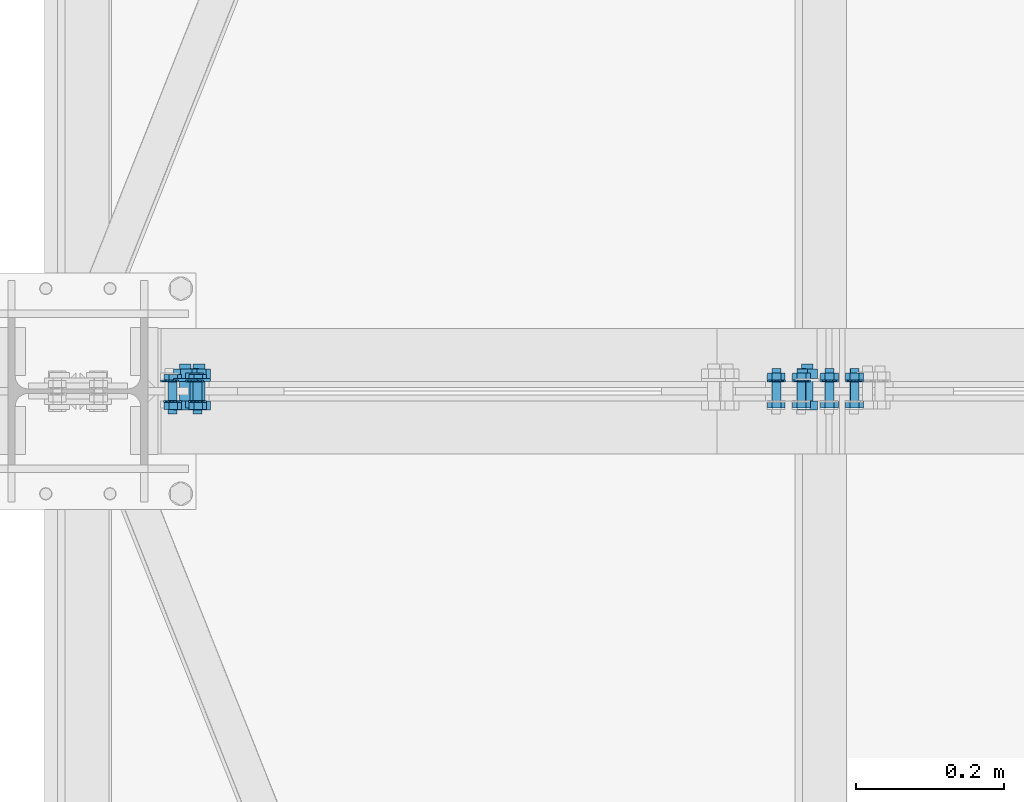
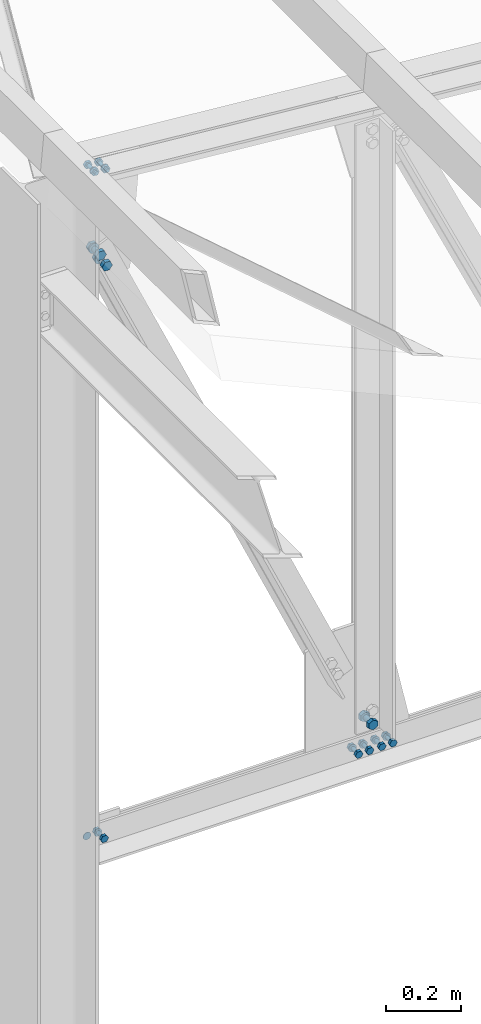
# One storey, part 122 of 251: 40 mechanical fasteners.
"""IFC4 building model written with IfcOpenShell, lengths in metres."""

from ifc_helpers import new_model, si_unit, frame, origin_with_axes, place, context, project, spatial, polyline, outline, extrude, type_object, element, save


model = new_model("IFC4")

# Units and contexts
model_context = context("Model", 3, precision=1e-05, world=origin_with_axes())
ifc_project = project(units=[si_unit("LENGTHUNIT", "METRE"), si_unit("AREAUNIT", "SQUARE_METRE"), si_unit("VOLUMEUNIT", "CUBIC_METRE"), si_unit("MASSUNIT", "GRAM", prefix="KILO"), si_unit("TIMEUNIT", "SECOND"), si_unit("PLANEANGLEUNIT", "RADIAN"), si_unit("SOLIDANGLEUNIT", "STERADIAN"), si_unit("THERMODYNAMICTEMPERATUREUNIT", "DEGREE_CELSIUS")], contexts=[model_context])

# Site, building, storey
placement_1 = place(None, origin_with_axes())
site = spatial("IfcSite", under=ifc_project, at=placement_1, Name="Italia", CompositionType="ELEMENT")
building = spatial("IfcBuilding", under=site, at=placement_1, Name="Deposito", CompositionType="ELEMENT")
storey = spatial("IfcBuildingStorey", under=building, at=placement_1, Name="Storey 0", CompositionType="ELEMENT", Elevation=0.0)

# Mechanical fasteners
mechanical_fastener_type_1 = type_object("IfcMechanicalFastenerType", Name="Reticolare 4", PredefinedType="BOLT")
placement_2 = place(placement_1, origin_with_axes())
mechanical_fastener_1_placement = place(placement_2, origin_with_axes())
element("IfcMechanicalFastener", 1, at=mechanical_fastener_1_placement, inside=storey, type_object=mechanical_fastener_type_1, Name="Reticolare 4", NominalDiameter=0.024, context=model_context, shape_type="SweptSolid", body=[
    extrude(outline(polyline([(0.0, 0.0), (-0.000409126, -0.00310564), (-0.00160789, -0.00600004), (-0.00351477, -0.00848532), (-0.00600004, -0.0103922), (-0.00889444, -0.011591), (-0.0120001, -0.0120001), (-0.0151057, -0.011591), (-0.0180001, -0.0103922), (-0.0204854, -0.00848532), (-0.0223923, -0.00600004), (-0.023591, -0.00310564), (-0.0240002, 0.0), (-0.023591, 0.00310564), (-0.0223923, 0.00600004), (-0.0204854, 0.00848532), (-0.0180001, 0.0103922), (-0.0151057, 0.011591), (-0.0120001, 0.0120001), (-0.00889444, 0.011591), (-0.00600004, 0.0103922), (-0.00351477, 0.00848532), (-0.00160789, 0.00600004), (-0.000409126, 0.00310564), (0.0, 0.0)])), frame((6.18605, 10.015, 5.007), z_axis=(0.0, -1.0, 0.0), x_axis=(1.0, 0.0, 0.0)), (0.0, 0.0, 1.0), 0.00200081),
])
mechanical_fastener_type_2 = type_object("IfcMechanicalFastenerType", Name="Reticolare 4", PredefinedType="BOLT")
mechanical_fastener_2_placement = place(placement_2, origin_with_axes())
element("IfcMechanicalFastener", 2, at=mechanical_fastener_2_placement, inside=storey, type_object=mechanical_fastener_type_2, Name="Reticolare 4", NominalDiameter=0.0119999, context=model_context, shape_type="SweptSolid", body=[
    extrude(outline(polyline([(0.0, 0.0), (-0.0120001, 0.0), (-0.0180001, 0.0103922), (-0.0120001, 0.0207844), (0.0, 0.0207844), (0.00600004, 0.0103922), (0.0, 0.0)])), frame((6.21405, 9.987, 4.99661), z_axis=(0.0, -1.0, 0.0), x_axis=(1.0, 0.0, 0.0)), (0.0, 0.0, 1.0), 0.00960064),
])
mechanical_fastener_type_3 = type_object("IfcMechanicalFastenerType", Name="Reticolare 4", PredefinedType="BOLT")
mechanical_fastener_3_placement = place(placement_2, origin_with_axes())
element("IfcMechanicalFastener", 3, at=mechanical_fastener_3_placement, inside=storey, type_object=mechanical_fastener_type_3, Name="Reticolare 4", NominalDiameter=0.012, context=model_context, shape_type="SweptSolid", body=[
    extrude(outline(polyline([(0.0, 0.0), (-0.000204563, -0.00155306), (-0.000803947, -0.00299978), (-0.00175762, -0.00424242), (-0.00300026, -0.00519609), (-0.00444698, -0.00579548), (-0.00600004, -0.00600004), (-0.0075531, -0.00579548), (-0.00899982, -0.00519609), (-0.0102425, -0.00424242), (-0.0111961, -0.00299978), (-0.0117955, -0.00155306), (-0.0120001, 0.0), (-0.0117955, 0.00155306), (-0.0111961, 0.00299978), (-0.0102425, 0.00424242), (-0.00899982, 0.00519609), (-0.0075531, 0.00579548), (-0.00600004, 0.00600004), (-0.00444698, 0.00579548), (-0.00300026, 0.00519609), (-0.00175762, 0.00424242), (-0.000803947, 0.00299978), (-0.000204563, 0.00155306), (0.0, 0.0)])), frame((6.21405, 10.031, 5.007), z_axis=(0.0, -1.0, 0.0), x_axis=(1.0, 0.0, 0.0)), (0.0, 0.0, 1.0), 0.0439997),
])
mechanical_fastener_type_4 = type_object("IfcMechanicalFastenerType", Name="Reticolare 4", PredefinedType="BOLT")
mechanical_fastener_4_placement = place(placement_2, origin_with_axes())
element("IfcMechanicalFastener", 4, at=mechanical_fastener_4_placement, inside=storey, type_object=mechanical_fastener_type_4, Name="Reticolare 4", NominalDiameter=0.0119999, context=model_context, shape_type="SweptSolid", body=[
    extrude(outline(polyline([(0.0, 0.0), (-0.0120001, 0.0), (-0.0180001, 0.0103922), (-0.0120001, 0.0207844), (0.0, 0.0207844), (0.00600004, 0.0103922), (0.0, 0.0)])), frame((6.21405, 10.0246, 4.99661), z_axis=(0.0, -1.0, 0.0), x_axis=(1.0, 0.0, 0.0)), (0.0, 0.0, 1.0), 0.00959969),
])
mechanical_fastener_type_5 = type_object("IfcMechanicalFastenerType", Name="Reticolare 4", PredefinedType="BOLT")
mechanical_fastener_5_placement = place(placement_2, origin_with_axes())
element("IfcMechanicalFastener", 5, at=mechanical_fastener_5_placement, inside=storey, type_object=mechanical_fastener_type_5, Name="Reticolare 4", NominalDiameter=0.024, context=model_context, shape_type="SweptSolid", body=[
    extrude(outline(polyline([(0.0, 0.0), (-0.000409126, -0.00310564), (-0.00160789, -0.00600004), (-0.00351477, -0.00848532), (-0.00600004, -0.0103922), (-0.00889444, -0.011591), (-0.0120001, -0.0120001), (-0.0151057, -0.011591), (-0.0180001, -0.0103922), (-0.0204854, -0.00848532), (-0.0223923, -0.00600004), (-0.023591, -0.00310564), (-0.0240002, 0.0), (-0.023591, 0.00310564), (-0.0223923, 0.00600004), (-0.0204854, 0.00848532), (-0.0180001, 0.0103922), (-0.0151057, 0.011591), (-0.0120001, 0.0120001), (-0.00889444, 0.011591), (-0.00600004, 0.0103922), (-0.00351477, 0.00848532), (-0.00160789, 0.00600004), (-0.000409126, 0.00310564), (0.0, 0.0)])), frame((6.22005, 10.015, 5.007), z_axis=(0.0, -1.0, 0.0), x_axis=(1.0, 0.0, 0.0)), (0.0, 0.0, 1.0), 0.00200081),
])
mechanical_fastener_type_6 = type_object("IfcMechanicalFastenerType", Name="Reticolare 4", PredefinedType="BOLT")
mechanical_fastener_6_placement = place(placement_2, origin_with_axes())
element("IfcMechanicalFastener", 6, at=mechanical_fastener_6_placement, inside=storey, type_object=mechanical_fastener_type_6, Name="Reticolare 4", NominalDiameter=0.0119999, context=model_context, shape_type="SweptSolid", body=[
    extrude(outline(polyline([(0.0, 0.0), (-0.0120001, 0.0), (-0.0180001, 0.0103922), (-0.0120001, 0.0207844), (0.0, 0.0207844), (0.00600004, 0.0103922), (0.0, 0.0)])), frame((7.07447, 9.987, 4.99661), z_axis=(0.0, -1.0, 0.0), x_axis=(1.0, 0.0, 0.0)), (0.0, 0.0, 1.0), 0.00960064),
])
mechanical_fastener_type_7 = type_object("IfcMechanicalFastenerType", Name="Reticolare 4", PredefinedType="BOLT")
mechanical_fastener_7_placement = place(placement_2, origin_with_axes())
element("IfcMechanicalFastener", 7, at=mechanical_fastener_7_placement, inside=storey, type_object=mechanical_fastener_type_7, Name="Reticolare 4", NominalDiameter=0.012, context=model_context, shape_type="SweptSolid", body=[
    extrude(outline(polyline([(0.0, 0.0), (-0.000204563, -0.00155306), (-0.000803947, -0.00299978), (-0.00175762, -0.00424242), (-0.00300026, -0.00519609), (-0.00444698, -0.00579548), (-0.00600004, -0.00600004), (-0.0075531, -0.00579548), (-0.00899982, -0.00519609), (-0.0102425, -0.00424242), (-0.0111961, -0.00299978), (-0.0117955, -0.00155306), (-0.0120001, 0.0), (-0.0117955, 0.00155306), (-0.0111961, 0.00299978), (-0.0102425, 0.00424242), (-0.00899982, 0.00519609), (-0.0075531, 0.00579548), (-0.00600004, 0.00600004), (-0.00444698, 0.00579548), (-0.00300026, 0.00519609), (-0.00175762, 0.00424242), (-0.000803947, 0.00299978), (-0.000204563, 0.00155306), (0.0, 0.0)])), frame((7.07447, 10.031, 5.007), z_axis=(0.0, -1.0, 0.0), x_axis=(1.0, 0.0, 0.0)), (0.0, 0.0, 1.0), 0.0439997),
])
mechanical_fastener_type_8 = type_object("IfcMechanicalFastenerType", Name="Reticolare 4", PredefinedType="BOLT")
mechanical_fastener_8_placement = place(placement_2, origin_with_axes())
element("IfcMechanicalFastener", 8, at=mechanical_fastener_8_placement, inside=storey, type_object=mechanical_fastener_type_8, Name="Reticolare 4", NominalDiameter=0.0119999, context=model_context, shape_type="SweptSolid", body=[
    extrude(outline(polyline([(0.0, 0.0), (-0.0120001, 0.0), (-0.0180001, 0.0103922), (-0.0120001, 0.0207844), (0.0, 0.0207844), (0.00600004, 0.0103922), (0.0, 0.0)])), frame((7.07447, 10.0246, 4.99661), z_axis=(0.0, -1.0, 0.0), x_axis=(1.0, 0.0, 0.0)), (0.0, 0.0, 1.0), 0.00959969),
])
mechanical_fastener_type_9 = type_object("IfcMechanicalFastenerType", Name="Reticolare 4", PredefinedType="BOLT")
mechanical_fastener_9_placement = place(placement_2, origin_with_axes())
element("IfcMechanicalFastener", 9, at=mechanical_fastener_9_placement, inside=storey, type_object=mechanical_fastener_type_9, Name="Reticolare 4", NominalDiameter=0.024, context=model_context, shape_type="SweptSolid", body=[
    extrude(outline(polyline([(0.0, 0.0), (-0.000409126, -0.00310564), (-0.00160789, -0.00600004), (-0.00351477, -0.00848532), (-0.00600004, -0.0103922), (-0.00889444, -0.011591), (-0.0120001, -0.0120001), (-0.0151057, -0.011591), (-0.0180001, -0.0103922), (-0.0204854, -0.00848532), (-0.0223923, -0.00600004), (-0.023591, -0.00310564), (-0.0240002, 0.0), (-0.023591, 0.00310564), (-0.0223923, 0.00600004), (-0.0204854, 0.00848532), (-0.0180001, 0.0103922), (-0.0151057, 0.011591), (-0.0120001, 0.0120001), (-0.00889444, 0.011591), (-0.00600004, 0.0103922), (-0.00351477, 0.00848532), (-0.00160789, 0.00600004), (-0.000409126, 0.00310564), (0.0, 0.0)])), frame((7.08047, 10.015, 5.007), z_axis=(0.0, -1.0, 0.0), x_axis=(1.0, 0.0, 0.0)), (0.0, 0.0, 1.0), 0.00200081),
])
mechanical_fastener_type_10 = type_object("IfcMechanicalFastenerType", Name="Reticolare 4", PredefinedType="BOLT")
mechanical_fastener_10_placement = place(placement_2, origin_with_axes())
element("IfcMechanicalFastener", 10, at=mechanical_fastener_10_placement, inside=storey, type_object=mechanical_fastener_type_10, Name="Reticolare 4", NominalDiameter=0.0119999, context=model_context, shape_type="SweptSolid", body=[
    extrude(outline(polyline([(0.0, 0.0), (-0.0120001, 0.0), (-0.0180001, 0.0103922), (-0.0120001, 0.0207844), (0.0, 0.0207844), (0.00600004, 0.0103922), (0.0, 0.0)])), frame((7.10847, 9.987, 4.99661), z_axis=(0.0, -1.0, 0.0), x_axis=(1.0, 0.0, 0.0)), (0.0, 0.0, 1.0), 0.00960064),
])
mechanical_fastener_type_11 = type_object("IfcMechanicalFastenerType", Name="Reticolare 4", PredefinedType="BOLT")
mechanical_fastener_11_placement = place(placement_2, origin_with_axes())
element("IfcMechanicalFastener", 11, at=mechanical_fastener_11_placement, inside=storey, type_object=mechanical_fastener_type_11, Name="Reticolare 4", NominalDiameter=0.012, context=model_context, shape_type="SweptSolid", body=[
    extrude(outline(polyline([(0.0, 0.0), (-0.000204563, -0.00155306), (-0.000803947, -0.00299978), (-0.00175762, -0.00424242), (-0.00300026, -0.00519609), (-0.00444698, -0.00579548), (-0.00600004, -0.00600004), (-0.0075531, -0.00579548), (-0.00899982, -0.00519609), (-0.0102425, -0.00424242), (-0.0111961, -0.00299978), (-0.0117955, -0.00155306), (-0.0120001, 0.0), (-0.0117955, 0.00155306), (-0.0111961, 0.00299978), (-0.0102425, 0.00424242), (-0.00899982, 0.00519609), (-0.0075531, 0.00579548), (-0.00600004, 0.00600004), (-0.00444698, 0.00579548), (-0.00300026, 0.00519609), (-0.00175762, 0.00424242), (-0.000803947, 0.00299978), (-0.000204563, 0.00155306), (0.0, 0.0)])), frame((7.10847, 10.031, 5.007), z_axis=(0.0, -1.0, 0.0), x_axis=(1.0, 0.0, 0.0)), (0.0, 0.0, 1.0), 0.0439997),
])
mechanical_fastener_type_12 = type_object("IfcMechanicalFastenerType", Name="Reticolare 4", PredefinedType="BOLT")
mechanical_fastener_12_placement = place(placement_2, origin_with_axes())
element("IfcMechanicalFastener", 12, at=mechanical_fastener_12_placement, inside=storey, type_object=mechanical_fastener_type_12, Name="Reticolare 4", NominalDiameter=0.0119999, context=model_context, shape_type="SweptSolid", body=[
    extrude(outline(polyline([(0.0, 0.0), (-0.0120001, 0.0), (-0.0180001, 0.0103922), (-0.0120001, 0.0207844), (0.0, 0.0207844), (0.00600004, 0.0103922), (0.0, 0.0)])), frame((7.10847, 10.0246, 4.99661), z_axis=(0.0, -1.0, 0.0), x_axis=(1.0, 0.0, 0.0)), (0.0, 0.0, 1.0), 0.00959969),
])
mechanical_fastener_type_13 = type_object("IfcMechanicalFastenerType", Name="Reticolare 4", PredefinedType="BOLT")
mechanical_fastener_13_placement = place(placement_2, origin_with_axes())
element("IfcMechanicalFastener", 13, at=mechanical_fastener_13_placement, inside=storey, type_object=mechanical_fastener_type_13, Name="Reticolare 4", NominalDiameter=0.024, context=model_context, shape_type="SweptSolid", body=[
    extrude(outline(polyline([(0.0, 0.0), (-0.000409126, -0.00310564), (-0.00160789, -0.00600004), (-0.00351477, -0.00848532), (-0.00600004, -0.0103922), (-0.00889444, -0.011591), (-0.0120001, -0.0120001), (-0.0151057, -0.011591), (-0.0180001, -0.0103922), (-0.0204854, -0.00848532), (-0.0223923, -0.00600004), (-0.023591, -0.00310564), (-0.0240002, 0.0), (-0.023591, 0.00310564), (-0.0223923, 0.00600004), (-0.0204854, 0.00848532), (-0.0180001, 0.0103922), (-0.0151057, 0.011591), (-0.0120001, 0.0120001), (-0.00889444, 0.011591), (-0.00600004, 0.0103922), (-0.00351477, 0.00848532), (-0.00160789, 0.00600004), (-0.000409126, 0.00310564), (0.0, 0.0)])), frame((7.11447, 10.015, 5.007), z_axis=(0.0, -1.0, 0.0), x_axis=(1.0, 0.0, 0.0)), (0.0, 0.0, 1.0), 0.00200081),
])
mechanical_fastener_type_14 = type_object("IfcMechanicalFastenerType", Name="Reticolare 4", PredefinedType="BOLT")
mechanical_fastener_14_placement = place(placement_2, origin_with_axes())
element("IfcMechanicalFastener", 14, at=mechanical_fastener_14_placement, inside=storey, type_object=mechanical_fastener_type_14, Name="Reticolare 4", NominalDiameter=0.0119999, context=model_context, shape_type="SweptSolid", body=[
    extrude(outline(polyline([(0.0, 0.0), (-0.0120001, 0.0), (-0.0180001, 0.0103922), (-0.0120001, 0.0207844), (0.0, 0.0207844), (0.00600004, 0.0103922), (0.0, 0.0)])), frame((7.03647, 9.987, 4.99661), z_axis=(0.0, -1.0, 0.0), x_axis=(1.0, 0.0, 0.0)), (0.0, 0.0, 1.0), 0.00960064),
])
mechanical_fastener_type_15 = type_object("IfcMechanicalFastenerType", Name="Reticolare 4", PredefinedType="BOLT")
mechanical_fastener_15_placement = place(placement_2, origin_with_axes())
element("IfcMechanicalFastener", 15, at=mechanical_fastener_15_placement, inside=storey, type_object=mechanical_fastener_type_15, Name="Reticolare 4", NominalDiameter=0.012, context=model_context, shape_type="SweptSolid", body=[
    extrude(outline(polyline([(0.0, 0.0), (-0.000204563, -0.00155306), (-0.000803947, -0.00299978), (-0.00175762, -0.00424242), (-0.00300026, -0.00519609), (-0.00444698, -0.00579548), (-0.00600004, -0.00600004), (-0.0075531, -0.00579548), (-0.00899982, -0.00519609), (-0.0102425, -0.00424242), (-0.0111961, -0.00299978), (-0.0117955, -0.00155306), (-0.0120001, 0.0), (-0.0117955, 0.00155306), (-0.0111961, 0.00299978), (-0.0102425, 0.00424242), (-0.00899982, 0.00519609), (-0.0075531, 0.00579548), (-0.00600004, 0.00600004), (-0.00444698, 0.00579548), (-0.00300026, 0.00519609), (-0.00175762, 0.00424242), (-0.000803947, 0.00299978), (-0.000204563, 0.00155306), (0.0, 0.0)])), frame((7.03647, 10.031, 5.007), z_axis=(0.0, -1.0, 0.0), x_axis=(1.0, 0.0, 0.0)), (0.0, 0.0, 1.0), 0.0439997),
])
mechanical_fastener_type_16 = type_object("IfcMechanicalFastenerType", Name="Reticolare 4", PredefinedType="BOLT")
mechanical_fastener_16_placement = place(placement_2, origin_with_axes())
element("IfcMechanicalFastener", 16, at=mechanical_fastener_16_placement, inside=storey, type_object=mechanical_fastener_type_16, Name="Reticolare 4", NominalDiameter=0.0119999, context=model_context, shape_type="SweptSolid", body=[
    extrude(outline(polyline([(0.0, 0.0), (-0.0120001, 0.0), (-0.0180001, 0.0103922), (-0.0120001, 0.0207844), (0.0, 0.0207844), (0.00600004, 0.0103922), (0.0, 0.0)])), frame((7.03647, 10.0246, 4.99661), z_axis=(0.0, -1.0, 0.0), x_axis=(1.0, 0.0, 0.0)), (0.0, 0.0, 1.0), 0.00959969),
])
mechanical_fastener_type_17 = type_object("IfcMechanicalFastenerType", Name="Reticolare 4", PredefinedType="BOLT")
mechanical_fastener_17_placement = place(placement_2, origin_with_axes())
element("IfcMechanicalFastener", 17, at=mechanical_fastener_17_placement, inside=storey, type_object=mechanical_fastener_type_17, Name="Reticolare 4", NominalDiameter=0.024, context=model_context, shape_type="SweptSolid", body=[
    extrude(outline(polyline([(0.0, 0.0), (-0.000409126, -0.00310564), (-0.00160789, -0.00600004), (-0.00351477, -0.00848532), (-0.00600004, -0.0103922), (-0.00889444, -0.011591), (-0.0120001, -0.0120001), (-0.0151057, -0.011591), (-0.0180001, -0.0103922), (-0.0204854, -0.00848532), (-0.0223923, -0.00600004), (-0.023591, -0.00310564), (-0.0240002, 0.0), (-0.023591, 0.00310564), (-0.0223923, 0.00600004), (-0.0204854, 0.00848532), (-0.0180001, 0.0103922), (-0.0151057, 0.011591), (-0.0120001, 0.0120001), (-0.00889444, 0.011591), (-0.00600004, 0.0103922), (-0.00351477, 0.00848532), (-0.00160789, 0.00600004), (-0.000409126, 0.00310564), (0.0, 0.0)])), frame((7.04247, 10.015, 5.007), z_axis=(0.0, -1.0, 0.0), x_axis=(1.0, 0.0, 0.0)), (0.0, 0.0, 1.0), 0.00200081),
])
mechanical_fastener_type_18 = type_object("IfcMechanicalFastenerType", Name="Reticolare 4", PredefinedType="BOLT")
mechanical_fastener_18_placement = place(placement_2, origin_with_axes())
element("IfcMechanicalFastener", 18, at=mechanical_fastener_18_placement, inside=storey, type_object=mechanical_fastener_type_18, Name="Reticolare 4", NominalDiameter=0.0119999, context=model_context, shape_type="SweptSolid", body=[
    extrude(outline(polyline([(0.0, 0.0), (-0.0120001, 0.0), (-0.0180001, 0.0103922), (-0.0120001, 0.0207844), (0.0, 0.0207844), (0.00600004, 0.0103922), (0.0, 0.0)])), frame((7.00247, 9.987, 4.99661), z_axis=(0.0, -1.0, 0.0), x_axis=(1.0, 0.0, 0.0)), (0.0, 0.0, 1.0), 0.00960064),
])
mechanical_fastener_type_19 = type_object("IfcMechanicalFastenerType", Name="Reticolare 4", PredefinedType="BOLT")
mechanical_fastener_19_placement = place(placement_2, origin_with_axes())
element("IfcMechanicalFastener", 19, at=mechanical_fastener_19_placement, inside=storey, type_object=mechanical_fastener_type_19, Name="Reticolare 4", NominalDiameter=0.012, context=model_context, shape_type="SweptSolid", body=[
    extrude(outline(polyline([(0.0, 0.0), (-0.000204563, -0.00155306), (-0.000803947, -0.00299978), (-0.00175762, -0.00424242), (-0.00300026, -0.00519609), (-0.00444698, -0.00579548), (-0.00600004, -0.00600004), (-0.0075531, -0.00579548), (-0.00899982, -0.00519609), (-0.0102425, -0.00424242), (-0.0111961, -0.00299978), (-0.0117955, -0.00155306), (-0.0120001, 0.0), (-0.0117955, 0.00155306), (-0.0111961, 0.00299978), (-0.0102425, 0.00424242), (-0.00899982, 0.00519609), (-0.0075531, 0.00579548), (-0.00600004, 0.00600004), (-0.00444698, 0.00579548), (-0.00300026, 0.00519609), (-0.00175762, 0.00424242), (-0.000803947, 0.00299978), (-0.000204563, 0.00155306), (0.0, 0.0)])), frame((7.00247, 10.031, 5.007), z_axis=(0.0, -1.0, 0.0), x_axis=(1.0, 0.0, 0.0)), (0.0, 0.0, 1.0), 0.0439997),
])
mechanical_fastener_type_20 = type_object("IfcMechanicalFastenerType", Name="Reticolare 4", PredefinedType="BOLT")
mechanical_fastener_20_placement = place(placement_2, origin_with_axes())
element("IfcMechanicalFastener", 20, at=mechanical_fastener_20_placement, inside=storey, type_object=mechanical_fastener_type_20, Name="Reticolare 4", NominalDiameter=0.0119999, context=model_context, shape_type="SweptSolid", body=[
    extrude(outline(polyline([(0.0, 0.0), (-0.0120001, 0.0), (-0.0180001, 0.0103922), (-0.0120001, 0.0207844), (0.0, 0.0207844), (0.00600004, 0.0103922), (0.0, 0.0)])), frame((7.00247, 10.0246, 4.99661), z_axis=(0.0, -1.0, 0.0), x_axis=(1.0, 0.0, 0.0)), (0.0, 0.0, 1.0), 0.00959969),
])
mechanical_fastener_type_21 = type_object("IfcMechanicalFastenerType", Name="Reticolare 4", PredefinedType="BOLT")
mechanical_fastener_21_placement = place(placement_2, origin_with_axes())
element("IfcMechanicalFastener", 21, at=mechanical_fastener_21_placement, inside=storey, type_object=mechanical_fastener_type_21, Name="Reticolare 4", NominalDiameter=0.024, context=model_context, shape_type="SweptSolid", body=[
    extrude(outline(polyline([(0.0, 0.0), (-0.000409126, -0.00310564), (-0.00160789, -0.00600004), (-0.00351477, -0.00848532), (-0.00600004, -0.0103922), (-0.00889444, -0.011591), (-0.0120001, -0.0120001), (-0.0151057, -0.011591), (-0.0180001, -0.0103922), (-0.0204854, -0.00848532), (-0.0223923, -0.00600004), (-0.023591, -0.00310564), (-0.0240002, 0.0), (-0.023591, 0.00310564), (-0.0223923, 0.00600004), (-0.0204854, 0.00848532), (-0.0180001, 0.0103922), (-0.0151057, 0.011591), (-0.0120001, 0.0120001), (-0.00889444, 0.011591), (-0.00600004, 0.0103922), (-0.00351477, 0.00848532), (-0.00160789, 0.00600004), (-0.000409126, 0.00310564), (0.0, 0.0)])), frame((7.00847, 10.015, 5.007), z_axis=(0.0, -1.0, 0.0), x_axis=(1.0, 0.0, 0.0)), (0.0, 0.0, 1.0), 0.00200081),
])
mechanical_fastener_type_22 = type_object("IfcMechanicalFastenerType", Name="Reticolare 4", PredefinedType="BOLT")
mechanical_fastener_22_placement = place(placement_2, origin_with_axes())
element("IfcMechanicalFastener", 22, at=mechanical_fastener_22_placement, inside=storey, type_object=mechanical_fastener_type_22, Name="Reticolare 4", NominalDiameter=0.016, context=model_context, shape_type="SweptSolid", body=[
    extrude(outline(polyline([(0.0, 0.0), (0.0, -0.0160003), (-0.0138564, -0.0240002), (-0.0277128, -0.0160003), (-0.0277128, 0.0), (-0.0138564, 0.0079999), (0.0, 0.0)])), frame((7.05233, 9.987, 5.09953), z_axis=(0.0, -1.0, 0.0), x_axis=(1.0, 0.0, 0.0)), (0.0, 0.0, 1.0), 0.0128002),
])
mechanical_fastener_type_23 = type_object("IfcMechanicalFastenerType", Name="Reticolare 4", PredefinedType="BOLT")
mechanical_fastener_23_placement = place(placement_2, origin_with_axes())
element("IfcMechanicalFastener", 23, at=mechanical_fastener_23_placement, inside=storey, type_object=mechanical_fastener_type_23, Name="Reticolare 4", NominalDiameter=0.016, context=model_context, shape_type="SweptSolid", body=[
    extrude(outline(polyline([(0.0, 0.0), (-0.000272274, -0.00207043), (-0.00107193, -0.00400019), (-0.00234318, -0.00565672), (-0.00399971, -0.00692797), (-0.00592947, -0.00772762), (-0.0079999, -0.0079999), (-0.0100703, -0.00772762), (-0.0120001, -0.00692797), (-0.0136566, -0.00565672), (-0.0149279, -0.00400019), (-0.0157275, -0.00207043), (-0.0159998, 0.0), (-0.0157275, 0.00207043), (-0.0149279, 0.00400019), (-0.0136566, 0.00565672), (-0.0120001, 0.00692797), (-0.0100703, 0.00772762), (-0.0079999, 0.0079999), (-0.00592947, 0.00772762), (-0.00399971, 0.00692797), (-0.00234318, 0.00565672), (-0.00107193, 0.00400019), (-0.000272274, 0.00207043), (0.0, 0.0)])), frame((7.04647, 10.037, 5.09153), z_axis=(0.0, -1.0, 0.0), x_axis=(1.0, 0.0, 0.0)), (0.0, 0.0, 1.0), 0.0499992),
])
mechanical_fastener_type_24 = type_object("IfcMechanicalFastenerType", Name="Reticolare 4", PredefinedType="BOLT")
mechanical_fastener_24_placement = place(placement_2, origin_with_axes())
element("IfcMechanicalFastener", 24, at=mechanical_fastener_24_placement, inside=storey, type_object=mechanical_fastener_type_24, Name="Reticolare 4", NominalDiameter=0.016, context=model_context, shape_type="SweptSolid", body=[
    extrude(outline(polyline([(0.0, 0.0), (0.0, -0.0160003), (-0.0138564, -0.0240002), (-0.0277128, -0.0160003), (-0.0277128, 0.0), (-0.0138564, 0.0079999), (0.0, 0.0)])), frame((7.05233, 10.0298, 5.09953), z_axis=(0.0, -1.0, 0.0), x_axis=(1.0, 0.0, 0.0)), (0.0, 0.0, 1.0), 0.0128002),
])
mechanical_fastener_type_25 = type_object("IfcMechanicalFastenerType", Name="Reticolare 4", PredefinedType="BOLT")
mechanical_fastener_25_placement = place(placement_2, origin_with_axes())
element("IfcMechanicalFastener", 25, at=mechanical_fastener_25_placement, inside=storey, type_object=mechanical_fastener_type_25, Name="Reticolare 4", NominalDiameter=0.012, context=model_context, shape_type="SweptSolid", body=[
    extrude(outline(polyline([(0.0, 0.0), (0.0119548, 0.00104237), (0.0188351, -0.00878954), (0.0137606, -0.0196638), (0.00180578, -0.0207062), (-0.0050745, -0.0108743), (0.0, 0.0)])), frame((6.18524, 10.013, 7.21179), z_axis=(0.0, 1.0, 0.0), x_axis=(-1.0, 0.0, 0.0)), (0.0, 0.0, 1.0), 0.00960064),
])
mechanical_fastener_type_26 = type_object("IfcMechanicalFastenerType", Name="Reticolare 4", PredefinedType="BOLT")
mechanical_fastener_26_placement = place(placement_2, origin_with_axes())
element("IfcMechanicalFastener", 26, at=mechanical_fastener_26_placement, inside=storey, type_object=mechanical_fastener_type_26, Name="Reticolare 4", NominalDiameter=0.012, context=model_context, shape_type="SweptSolid", body=[
    extrude(outline(polyline([(0.0, 0.0), (-0.000204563, -0.00155306), (-0.000803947, -0.00299978), (-0.00175762, -0.00424242), (-0.00300026, -0.00519609), (-0.00444698, -0.00579548), (-0.00600004, -0.00600004), (-0.0075531, -0.00579548), (-0.00899982, -0.00519609), (-0.0102425, -0.00424242), (-0.0111961, -0.00299978), (-0.0117955, -0.00155306), (-0.0120001, 0.0), (-0.0117955, 0.00155306), (-0.0111961, 0.00299978), (-0.0102425, 0.00424242), (-0.00899982, 0.00519609), (-0.0075531, 0.00579548), (-0.00600004, 0.00600004), (-0.00444698, 0.00579548), (-0.00300026, 0.00519609), (-0.00175762, 0.00424242), (-0.000803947, 0.00299978), (-0.000204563, 0.00155306), (0.0, 0.0)])), frame((6.17236, 9.969, 7.20196), z_axis=(0.0, 1.0, 0.0), x_axis=(-1.0, 0.0, 0.0)), (0.0, 0.0, 1.0), 0.0439997),
])
mechanical_fastener_type_27 = type_object("IfcMechanicalFastenerType", Name="Reticolare 4", PredefinedType="BOLT")
mechanical_fastener_27_placement = place(placement_2, origin_with_axes())
element("IfcMechanicalFastener", 27, at=mechanical_fastener_27_placement, inside=storey, type_object=mechanical_fastener_type_27, Name="Reticolare 4", NominalDiameter=0.012, context=model_context, shape_type="SweptSolid", body=[
    extrude(outline(polyline([(0.0, 0.0), (0.0119548, 0.00104237), (0.0188351, -0.00878954), (0.0137606, -0.0196638), (0.00180578, -0.0207062), (-0.0050745, -0.0108743), (0.0, 0.0)])), frame((6.18524, 9.9754, 7.21179), z_axis=(0.0, 1.0, 0.0), x_axis=(-1.0, 0.0, 0.0)), (0.0, 0.0, 1.0), 0.00959969),
])
mechanical_fastener_type_28 = type_object("IfcMechanicalFastenerType", Name="Reticolare 4", PredefinedType="BOLT")
mechanical_fastener_28_placement = place(placement_2, origin_with_axes())
element("IfcMechanicalFastener", 28, at=mechanical_fastener_28_placement, inside=storey, type_object=mechanical_fastener_type_28, Name="Reticolare 4", NominalDiameter=0.024, context=model_context, shape_type="SweptSolid", body=[
    extrude(outline(polyline([(0.0, 0.0), (-0.000409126, -0.00310564), (-0.00160789, -0.00600004), (-0.00351477, -0.00848532), (-0.00600004, -0.0103922), (-0.00889444, -0.011591), (-0.0120001, -0.0120001), (-0.0151057, -0.011591), (-0.0180001, -0.0103922), (-0.0204854, -0.00848532), (-0.0223923, -0.00600004), (-0.023591, -0.00310564), (-0.0240002, 0.0), (-0.023591, 0.00310564), (-0.0223923, 0.00600004), (-0.0204854, 0.00848532), (-0.0180001, 0.0103922), (-0.0151057, 0.011591), (-0.0120001, 0.0120001), (-0.00889444, 0.011591), (-0.00600004, 0.0103922), (-0.00351477, 0.00848532), (-0.00160789, 0.00600004), (-0.000409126, 0.00310564), (0.0, 0.0)])), frame((6.16636, 9.985, 7.20196), z_axis=(0.0, 1.0, 0.0), x_axis=(-1.0, 0.0, 0.0)), (0.0, 0.0, 1.0), 0.00200081),
])
mechanical_fastener_type_29 = type_object("IfcMechanicalFastenerType", Name="Reticolare 4", PredefinedType="BOLT")
mechanical_fastener_29_placement = place(placement_2, origin_with_axes())
element("IfcMechanicalFastener", 29, at=mechanical_fastener_29_placement, inside=storey, type_object=mechanical_fastener_type_29, Name="Reticolare 4", NominalDiameter=0.0119995, context=model_context, shape_type="SweptSolid", body=[
    extrude(outline(polyline([(0.0, 0.0), (0.0119543, 0.00104284), (0.0188346, -0.00878906), (0.0137601, -0.0196633), (0.00180531, -0.0207057), (-0.0050745, -0.0108743), (0.0, 0.0)])), frame((6.21912, 10.013, 7.20884), z_axis=(0.0, 1.0, 0.0), x_axis=(-1.0, 0.0, 0.0)), (0.0, 0.0, 1.0), 0.00960064),
])
mechanical_fastener_type_30 = type_object("IfcMechanicalFastenerType", Name="Reticolare 4", PredefinedType="BOLT")
mechanical_fastener_30_placement = place(placement_2, origin_with_axes())
element("IfcMechanicalFastener", 30, at=mechanical_fastener_30_placement, inside=storey, type_object=mechanical_fastener_type_30, Name="Reticolare 4", NominalDiameter=0.012, context=model_context, shape_type="SweptSolid", body=[
    extrude(outline(polyline([(0.0, 0.0), (-0.000204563, -0.00155306), (-0.000803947, -0.00299978), (-0.00175762, -0.00424242), (-0.00300026, -0.00519609), (-0.00444698, -0.00579548), (-0.00600004, -0.00600004), (-0.0075531, -0.00579548), (-0.00899982, -0.00519609), (-0.0102425, -0.00424242), (-0.0111961, -0.00299978), (-0.0117955, -0.00155306), (-0.0120001, 0.0), (-0.0117955, 0.00155306), (-0.0111961, 0.00299978), (-0.0102425, 0.00424242), (-0.00899982, 0.00519609), (-0.0075531, 0.00579548), (-0.00600004, 0.00600004), (-0.00444698, 0.00579548), (-0.00300026, 0.00519609), (-0.00175762, 0.00424242), (-0.000803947, 0.00299978), (-0.000204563, 0.00155306), (0.0, 0.0)])), frame((6.20624, 9.969, 7.19901), z_axis=(0.0, 1.0, 0.0), x_axis=(-1.0, 0.0, 0.0)), (0.0, 0.0, 1.0), 0.0439997),
])
mechanical_fastener_type_31 = type_object("IfcMechanicalFastenerType", Name="Reticolare 4", PredefinedType="BOLT")
mechanical_fastener_31_placement = place(placement_2, origin_with_axes())
element("IfcMechanicalFastener", 31, at=mechanical_fastener_31_placement, inside=storey, type_object=mechanical_fastener_type_31, Name="Reticolare 4", NominalDiameter=0.0119995, context=model_context, shape_type="SweptSolid", body=[
    extrude(outline(polyline([(0.0, 0.0), (0.0119543, 0.00104284), (0.0188346, -0.00878906), (0.0137601, -0.0196633), (0.00180531, -0.0207057), (-0.0050745, -0.0108743), (0.0, 0.0)])), frame((6.21912, 9.9754, 7.20884), z_axis=(0.0, 1.0, 0.0), x_axis=(-1.0, 0.0, 0.0)), (0.0, 0.0, 1.0), 0.00959969),
])
mechanical_fastener_type_32 = type_object("IfcMechanicalFastenerType", Name="Reticolare 4", PredefinedType="BOLT")
mechanical_fastener_32_placement = place(placement_2, origin_with_axes())
element("IfcMechanicalFastener", 32, at=mechanical_fastener_32_placement, inside=storey, type_object=mechanical_fastener_type_32, Name="Reticolare 4", NominalDiameter=0.024, context=model_context, shape_type="SweptSolid", body=[
    extrude(outline(polyline([(0.0, 0.0), (-0.000409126, -0.00310564), (-0.00160789, -0.00600004), (-0.00351477, -0.00848532), (-0.00600004, -0.0103922), (-0.00889444, -0.011591), (-0.0120001, -0.0120001), (-0.0151057, -0.011591), (-0.0180001, -0.0103922), (-0.0204854, -0.00848532), (-0.0223923, -0.00600004), (-0.023591, -0.00310564), (-0.0240002, 0.0), (-0.023591, 0.00310564), (-0.0223923, 0.00600004), (-0.0204854, 0.00848532), (-0.0180001, 0.0103922), (-0.0151057, 0.011591), (-0.0120001, 0.0120001), (-0.00889444, 0.011591), (-0.00600004, 0.0103922), (-0.00351477, 0.00848532), (-0.00160789, 0.00600004), (-0.000409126, 0.00310564), (0.0, 0.0)])), frame((6.20024, 9.985, 7.19901), z_axis=(0.0, 1.0, 0.0), x_axis=(-1.0, 0.0, 0.0)), (0.0, 0.0, 1.0), 0.00200081),
])
mechanical_fastener_type_33 = type_object("IfcMechanicalFastenerType", Name="Reticolare 4", PredefinedType="BOLT")
mechanical_fastener_33_placement = place(placement_2, origin_with_axes())
element("IfcMechanicalFastener", 33, at=mechanical_fastener_33_placement, inside=storey, type_object=mechanical_fastener_type_33, Name="Reticolare 4", NominalDiameter=0.0159996, context=model_context, shape_type="SweptSolid", body=[
    extrude(outline(polyline([(0.0, 0.0), (-0.00656796, 0.0145898), (0.00278282, 0.0275726), (0.018702, 0.0259657), (0.02527, 0.0113759), (0.0159187, -0.00160694), (0.0, 0.0)])), frame((6.18611, 9.987, 6.91087), z_axis=(0.0, -1.0, 0.0), x_axis=(1.0, 0.0, 0.0)), (0.0, 0.0, 1.0), 0.0128002),
])
mechanical_fastener_type_34 = type_object("IfcMechanicalFastenerType", Name="Reticolare 4", PredefinedType="BOLT")
mechanical_fastener_34_placement = place(placement_2, origin_with_axes())
element("IfcMechanicalFastener", 34, at=mechanical_fastener_34_placement, inside=storey, type_object=mechanical_fastener_type_34, Name="Reticolare 4", NominalDiameter=0.016, context=model_context, shape_type="SweptSolid", body=[
    extrude(outline(polyline([(0.0, 0.0), (-0.000272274, -0.00207043), (-0.00107193, -0.00400019), (-0.00234318, -0.00565672), (-0.00399971, -0.00692797), (-0.00592947, -0.00772762), (-0.0079999, -0.0079999), (-0.0100703, -0.00772762), (-0.0120001, -0.00692797), (-0.0136566, -0.00565672), (-0.0149279, -0.00400019), (-0.0157275, -0.00207043), (-0.0159998, 0.0), (-0.0157275, 0.00207043), (-0.0149279, 0.00400019), (-0.0136566, 0.00565672), (-0.0120001, 0.00692797), (-0.0100703, 0.00772762), (-0.0079999, 0.0079999), (-0.00592947, 0.00772762), (-0.00399971, 0.00692797), (-0.00234318, 0.00565672), (-0.00107193, 0.00400019), (-0.000272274, 0.00207043), (0.0, 0.0)])), frame((6.20346, 10.037, 6.92385), z_axis=(0.0, -1.0, 0.0), x_axis=(1.0, 0.0, 0.0)), (0.0, 0.0, 1.0), 0.0499992),
])
mechanical_fastener_type_35 = type_object("IfcMechanicalFastenerType", Name="Reticolare 4", PredefinedType="BOLT")
mechanical_fastener_35_placement = place(placement_2, origin_with_axes())
element("IfcMechanicalFastener", 35, at=mechanical_fastener_35_placement, inside=storey, type_object=mechanical_fastener_type_35, Name="Reticolare 4", NominalDiameter=0.0159996, context=model_context, shape_type="SweptSolid", body=[
    extrude(outline(polyline([(0.0, 0.0), (-0.00656796, 0.0145898), (0.00278282, 0.0275726), (0.018702, 0.0259657), (0.02527, 0.0113759), (0.0159187, -0.00160694), (0.0, 0.0)])), frame((6.18611, 10.0298, 6.91087), z_axis=(0.0, -1.0, 0.0), x_axis=(1.0, 0.0, 0.0)), (0.0, 0.0, 1.0), 0.0128002),
])
mechanical_fastener_type_36 = type_object("IfcMechanicalFastenerType", Name="Reticolare 4", PredefinedType="BOLT")
mechanical_fastener_36_placement = place(placement_2, origin_with_axes())
element("IfcMechanicalFastener", 36, at=mechanical_fastener_36_placement, inside=storey, type_object=mechanical_fastener_type_36, Name="Reticolare 4", NominalDiameter=0.032, context=model_context, shape_type="SweptSolid", body=[
    extrude(outline(polyline([(0.0, 0.0), (-0.000545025, -0.00414133), (-0.00214338, -0.0079999), (-0.00468588, -0.0113139), (-0.0079999, -0.0138564), (-0.0118585, -0.0154548), (-0.0159998, -0.0159998), (-0.0201411, -0.0154548), (-0.0239997, -0.0138564), (-0.0273137, -0.0113139), (-0.0298562, -0.0079999), (-0.0314546, -0.00414133), (-0.0319996, 0.0), (-0.0314546, 0.00414133), (-0.0298562, 0.0079999), (-0.0273137, 0.0113139), (-0.0239997, 0.0138564), (-0.0201411, 0.0154548), (-0.0159998, 0.0159998), (-0.0118585, 0.0154548), (-0.0079999, 0.0138564), (-0.00468588, 0.0113139), (-0.00214338, 0.0079999), (-0.000545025, 0.00414133), (0.0, 0.0)])), frame((6.21146, 10.017, 6.92385), z_axis=(0.0, -1.0, 0.0), x_axis=(1.0, 0.0, 0.0)), (0.0, 0.0, 1.0), 0.00400066),
])
mechanical_fastener_type_37 = type_object("IfcMechanicalFastenerType", Name="Reticolare 4", PredefinedType="BOLT")
mechanical_fastener_37_placement = place(placement_2, origin_with_axes())
element("IfcMechanicalFastener", 37, at=mechanical_fastener_37_placement, inside=storey, type_object=mechanical_fastener_type_37, Name="Reticolare 4", NominalDiameter=0.016, context=model_context, shape_type="SweptSolid", body=[
    extrude(outline(polyline([(0.0, 0.0), (-0.00656796, 0.0145898), (0.0027833, 0.0275726), (0.0187025, 0.0259657), (0.0252705, 0.0113759), (0.0159192, -0.00160694), (0.0, 0.0)])), frame((6.20459, 9.987, 6.86983), z_axis=(0.0, -1.0, 0.0), x_axis=(1.0, 0.0, 0.0)), (0.0, 0.0, 1.0), 0.0128002),
])
mechanical_fastener_type_38 = type_object("IfcMechanicalFastenerType", Name="Reticolare 4", PredefinedType="BOLT")
mechanical_fastener_38_placement = place(placement_2, origin_with_axes())
element("IfcMechanicalFastener", 38, at=mechanical_fastener_38_placement, inside=storey, type_object=mechanical_fastener_type_38, Name="Reticolare 4", NominalDiameter=0.016, context=model_context, shape_type="SweptSolid", body=[
    extrude(outline(polyline([(0.0, 0.0), (-0.000272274, -0.00207043), (-0.00107193, -0.00400019), (-0.00234318, -0.00565672), (-0.00399971, -0.00692797), (-0.00592947, -0.00772762), (-0.0079999, -0.0079999), (-0.0100703, -0.00772762), (-0.0120001, -0.00692797), (-0.0136566, -0.00565672), (-0.0149279, -0.00400019), (-0.0157275, -0.00207043), (-0.0159998, 0.0), (-0.0157275, 0.00207043), (-0.0149279, 0.00400019), (-0.0136566, 0.00565672), (-0.0120001, 0.00692797), (-0.0100703, 0.00772762), (-0.0079999, 0.0079999), (-0.00592947, 0.00772762), (-0.00399971, 0.00692797), (-0.00234318, 0.00565672), (-0.00107193, 0.00400019), (-0.000272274, 0.00207043), (0.0, 0.0)])), frame((6.22194, 10.037, 6.88282), z_axis=(0.0, -1.0, 0.0), x_axis=(1.0, 0.0, 0.0)), (0.0, 0.0, 1.0), 0.0499992),
])
mechanical_fastener_type_39 = type_object("IfcMechanicalFastenerType", Name="Reticolare 4", PredefinedType="BOLT")
mechanical_fastener_39_placement = place(placement_2, origin_with_axes())
element("IfcMechanicalFastener", 39, at=mechanical_fastener_39_placement, inside=storey, type_object=mechanical_fastener_type_39, Name="Reticolare 4", NominalDiameter=0.016, context=model_context, shape_type="SweptSolid", body=[
    extrude(outline(polyline([(0.0, 0.0), (-0.00656796, 0.0145898), (0.0027833, 0.0275726), (0.0187025, 0.0259657), (0.0252705, 0.0113759), (0.0159192, -0.00160694), (0.0, 0.0)])), frame((6.20459, 10.0298, 6.86983), z_axis=(0.0, -1.0, 0.0), x_axis=(1.0, 0.0, 0.0)), (0.0, 0.0, 1.0), 0.0128002),
])
mechanical_fastener_type_40 = type_object("IfcMechanicalFastenerType", Name="Reticolare 4", PredefinedType="BOLT")
mechanical_fastener_40_placement = place(placement_2, origin_with_axes())
element("IfcMechanicalFastener", 40, at=mechanical_fastener_40_placement, inside=storey, type_object=mechanical_fastener_type_40, Name="Reticolare 4", NominalDiameter=0.032, context=model_context, shape_type="SweptSolid", body=[
    extrude(outline(polyline([(0.0, 0.0), (-0.000545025, -0.00414133), (-0.00214338, -0.0079999), (-0.00468588, -0.0113139), (-0.0079999, -0.0138564), (-0.0118585, -0.0154548), (-0.0159998, -0.0159998), (-0.0201411, -0.0154548), (-0.0239997, -0.0138564), (-0.0273137, -0.0113139), (-0.0298562, -0.0079999), (-0.0314546, -0.00414133), (-0.0319996, 0.0), (-0.0314546, 0.00414133), (-0.0298562, 0.0079999), (-0.0273137, 0.0113139), (-0.0239997, 0.0138564), (-0.0201411, 0.0154548), (-0.0159998, 0.0159998), (-0.0118585, 0.0154548), (-0.0079999, 0.0138564), (-0.00468588, 0.0113139), (-0.00214338, 0.0079999), (-0.000545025, 0.00414133), (0.0, 0.0)])), frame((6.22994, 10.017, 6.88282), z_axis=(0.0, -1.0, 0.0), x_axis=(1.0, 0.0, 0.0)), (0.0, 0.0, 1.0), 0.00400066),
])

save(model, "model.ifc")
